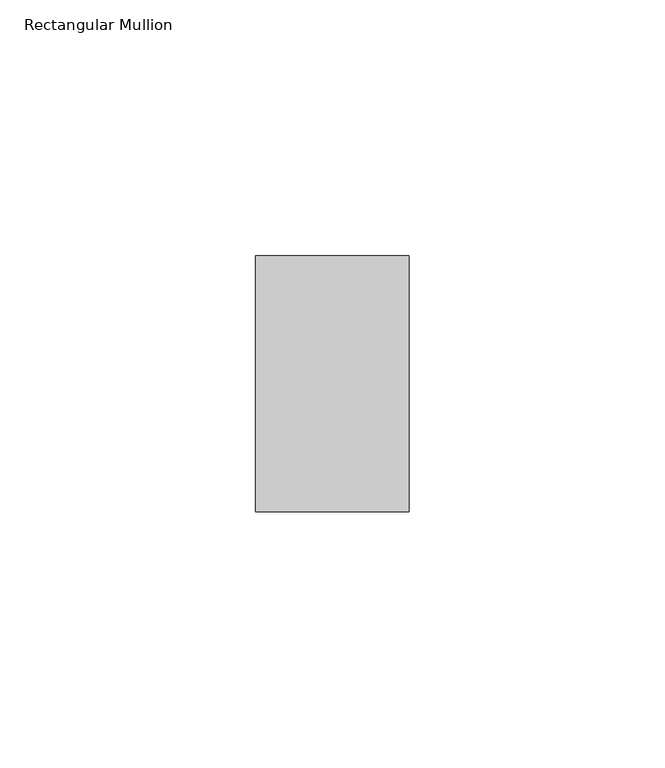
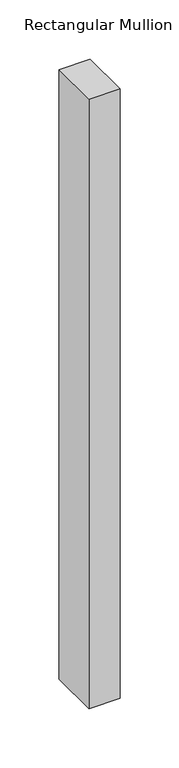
"""IFC4 building model written with IfcOpenShell, lengths in millimetres: member geometry, Rectangular Mullion : ARQ_TV_MULL_50x30mm."""

from ifc_helpers import new_model, si_unit, frame, origin, place, context, project, spatial, polyline, outline, extrude, source, transform, mapped, element, save


def rectangular_mullion_97640366(model_context):
    return source(origin(), model_context, "Body", "SweptSolid", [
        extrude(outline(polyline([(0.0, 25.0), (0.0, -25.0), (-30.0, -25.0), (-30.0, 25.0), (0.0, 25.0)])), frame((0.0, 0.0, -625.9883629), z_axis=(0.0, 0.0, 1.0), x_axis=(1.0, 0.0, 0.0)), (0.0, 0.0, 1.0), 625.9883629),
    ])


if __name__ == "__main__":
    model = new_model("IFC4")
    model_context = context("Model", 3, world=origin())
    ifc_project = project(units=[si_unit("LENGTHUNIT", "METRE", prefix="MILLI")], contexts=[model_context])
    site = spatial("IfcSite", under=ifc_project)
    building = spatial("IfcBuilding", under=site)
    placement = place(None, origin())
    rectangular_mullion_shape = rectangular_mullion_97640366(model_context)
    element("IfcMember", 1, ObjectType="Rectangular Mullion : ARQ_TV_MULL_50x30mm", at=placement, inside=building, context=model_context, shape_type="MappedRepresentation", body=[
        mapped(rectangular_mullion_shape, transform((0.0, 0.0, 0.0), x_axis=(1.0, 0.0, 0.0), y_axis=(0.0, 1.0, 0.0), z_axis=(0.0, 0.0, 1.0))),
    ])
    save(model, "model.ifc")
